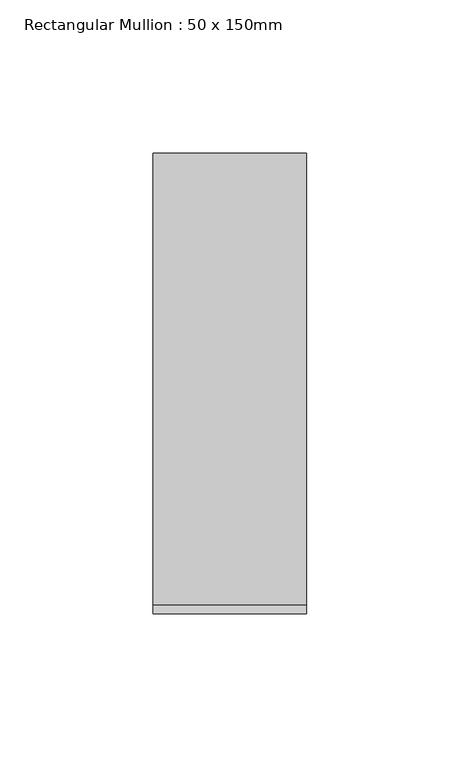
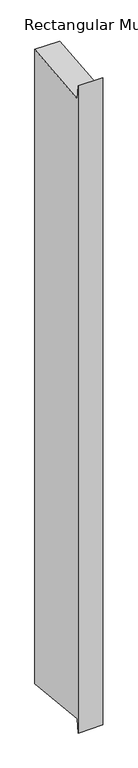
"""IFC4 building model written with IfcOpenShell, lengths in millimetres: member geometry, Rectangular Mullion : 50 x 150mm."""

from ifc_helpers import new_model, si_unit, frame, origin, place, context, project, spatial, polyline, outline, extrude, source, transform, mapped, element, save


def rectangular_mullion_50_x_150mm_af4d71e1(model_context):
    return source(origin(), model_context, "Body", "SweptSolid", [
        extrude(outline(polyline([(-75.0, 21.1142895), (-72.0149057, -7.6167649), (75.0, 7.6577651), (75.0, -1340.0232147), (-72.0149057, -1324.7486848), (-75.0, -1353.4797391), (-75.0, 21.1142895)])), frame((-50.0, 0.0, 0.0), z_axis=(1.0, 0.0, 0.0), x_axis=(0.0, 1.0, 0.0)), (0.0, 0.0, 1.0), 50.0),
    ])


if __name__ == "__main__":
    model = new_model("IFC4")
    model_context = context("Model", 3, world=origin())
    ifc_project = project(units=[si_unit("LENGTHUNIT", "METRE", prefix="MILLI")], contexts=[model_context])
    site = spatial("IfcSite", under=ifc_project)
    building = spatial("IfcBuilding", under=site)
    placement = place(None, origin())
    rectangular_mullion_50_x_150mm_shape = rectangular_mullion_50_x_150mm_af4d71e1(model_context)
    element("IfcMember", 1, ObjectType="Rectangular Mullion : 50 x 150mm", at=placement, inside=building, context=model_context, shape_type="MappedRepresentation", body=[
        mapped(rectangular_mullion_50_x_150mm_shape, transform((0.0, 0.0, 0.0), x_axis=(1.0, 0.0, 0.0), y_axis=(0.0, 1.0, 0.0), z_axis=(0.0, 0.0, 1.0))),
    ])
    save(model, "model.ifc")
